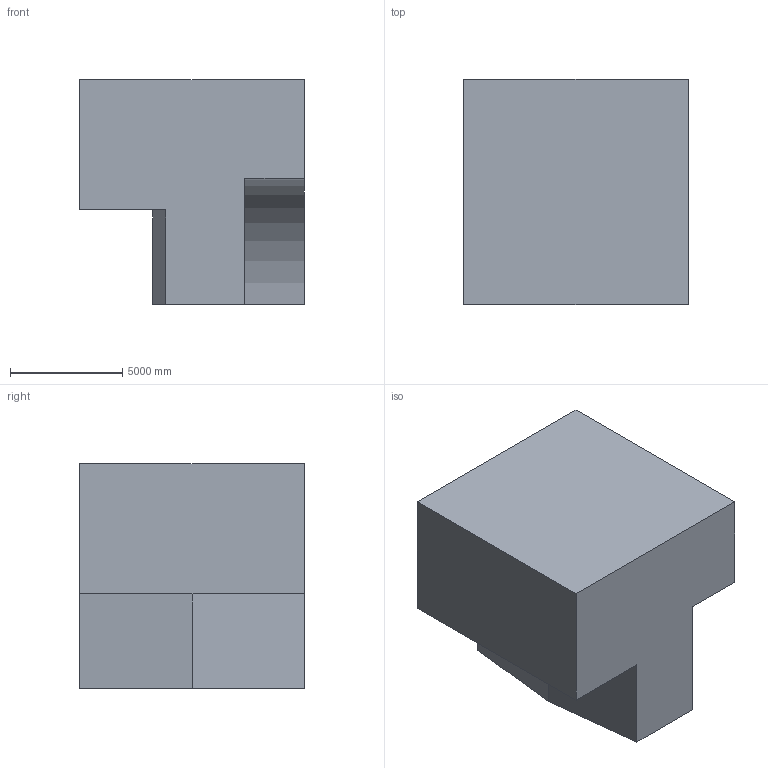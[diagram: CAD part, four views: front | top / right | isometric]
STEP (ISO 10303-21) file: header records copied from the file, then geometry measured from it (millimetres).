
FILE_DESCRIPTION (( 'STEP AP203' ), '1' );
FILE_NAME ('63.STEP', '2022-07-28T13:31:33', ( 'user' ), ( '' ), 'SwSTEP 2.0', 'SolidWorks 2021', '' );
FILE_SCHEMA (( 'CONFIG_CONTROL_DESIGN' ));
Length unit declared in the file: centimetre
Products named in the file (1): 63
Bounding box: 10000 x 10000 x 10000 mm (x, y, z)
Volume: 785713151347.2 mm3; surface area: 561710416.3 mm2
Topology: 1 solids, 1 shells, 11 faces, 27 edges, 18 vertices
Faces by surface type: plane 10, cylinder 1
Entity records: 400 total; most frequent: CARTESIAN_POINT 57, ORIENTED_EDGE 54, DIRECTION 53, EDGE_CURVE 27, LINE 25, VECTOR 25, VERTEX_POINT 18, AXIS2_PLACEMENT_3D 14
